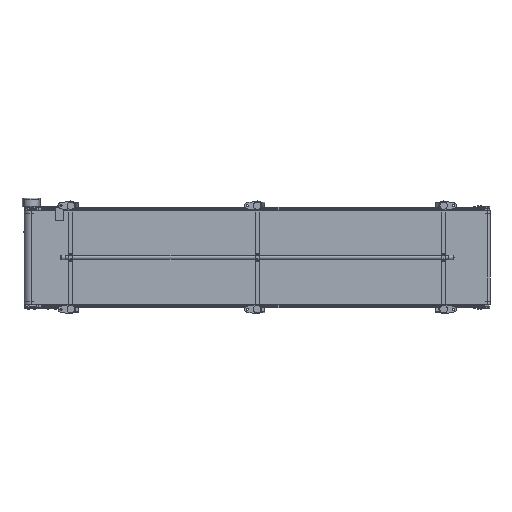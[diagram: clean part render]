
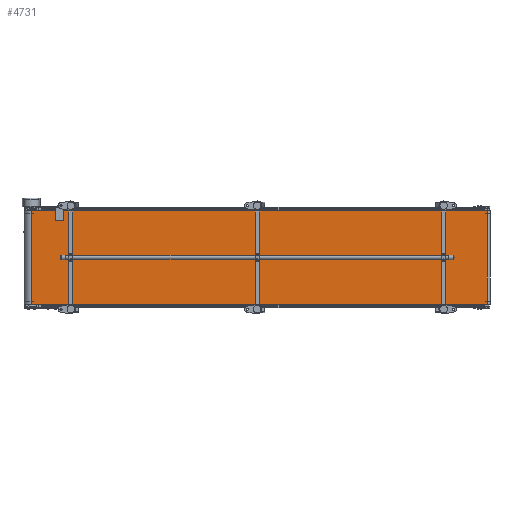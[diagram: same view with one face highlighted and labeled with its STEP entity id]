
A CAD part, front view. The second image highlights one B-rep face of the part: STEP entity #4731.
In plain terms, the highlighted planar face has unit normal (0.019, -1, 0).
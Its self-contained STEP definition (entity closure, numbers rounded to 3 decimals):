
#4731=ADVANCED_FACE('',(#30160),#30159,.F.);
#30159=PLANE('',#46864);
#30160=FACE_OUTER_BOUND('',#46865,.T.);
#46861=CARTESIAN_POINT('',(2990.343,-33.507,-310.));
#46862=DIRECTION('',(-0.019,1.,0.));
#46863=DIRECTION('',(-1.,-0.019,0.));
#46864=AXIS2_PLACEMENT_3D('',#46861,#46862,#46863);
#46865=EDGE_LOOP('',(#60269,#60270,#60271,#60272));
#60269=ORIENTED_EDGE('',*,*,#67499,.T.);
#60270=ORIENTED_EDGE('',*,*,#67506,.F.);
#60271=ORIENTED_EDGE('',*,*,#67493,.F.);
#60272=ORIENTED_EDGE('',*,*,#67507,.T.);
#67493=EDGE_CURVE('',#109123,#109108,#109130,.T.);
#67499=EDGE_CURVE('',#109172,#109164,#109173,.T.);
#67506=EDGE_CURVE('',#109108,#109164,#109220,.T.);
#67507=EDGE_CURVE('',#109123,#109172,#109226,.T.);
#109108=VERTEX_POINT('',#137542);
#109123=VERTEX_POINT('',#137552);
#109130=LINE('',#137557,#137558);
#109164=VERTEX_POINT('',#137578);
#109172=VERTEX_POINT('',#137584);
#109173=LINE('',#137585,#137586);
#109220=LINE('',#137614,#137615);
#109226=LINE('',#137617,#137618);
#137542=CARTESIAN_POINT('',(2980.344,-33.697,300.));
#137552=CARTESIAN_POINT('',(45.866,-89.242,300.));
#137557=CARTESIAN_POINT('',(45.866,-89.242,300.));
#137558=VECTOR('',#137559,2935.004);
#137559=DIRECTION('',(1.,0.019,0.));
#137578=CARTESIAN_POINT('',(2980.344,-33.697,-300.));
#137584=CARTESIAN_POINT('',(45.866,-89.242,-300.));
#137585=CARTESIAN_POINT('',(45.866,-89.242,-300.));
#137586=VECTOR('',#137587,2935.004);
#137587=DIRECTION('',(1.,0.019,0.));
#137614=CARTESIAN_POINT('',(2980.344,-33.697,300.));
#137615=VECTOR('',#137616,600.);
#137616=DIRECTION('',(0.,0.,-1.));
#137617=CARTESIAN_POINT('',(45.866,-89.242,300.));
#137618=VECTOR('',#137619,600.);
#137619=DIRECTION('',(0.,0.,-1.));
